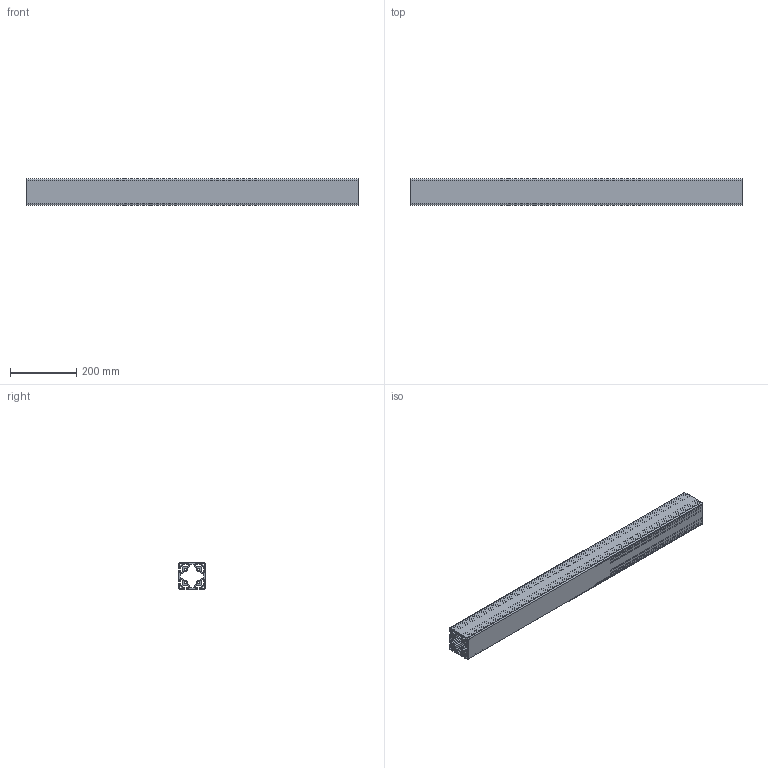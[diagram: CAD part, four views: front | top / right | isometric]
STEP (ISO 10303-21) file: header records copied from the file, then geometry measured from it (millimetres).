
FILE_DESCRIPTION (( 'STEP AP203' ), '1' );
FILE_NAME ('28351_PRO_80x80_L_4N.STEP', '2016-03-02T08:38:44', ( '' ), ( '' ), 'SwSTEP 2.0', 'SolidWorks 2015', '' );
FILE_SCHEMA (( 'CONFIG_CONTROL_DESIGN' ));
Length unit declared in the file: millimetre
Products named in the file (1): 28351_PRO_80x80_L_4N
Bounding box: 1000 x 80 x 80 mm (x, y, z)
Volume: 2064337.3 mm3; surface area: 1173354 mm2
Topology: 1 solids, 1 shells, 330 faces, 984 edges, 656 vertices
Faces by surface type: cylinder 172, plane 158
Entity records: 11321 total; most frequent: DIRECTION 1990, CARTESIAN_POINT 1971, ORIENTED_EDGE 1968, EDGE_CURVE 984, AXIS2_PLACEMENT_3D 675, VERTEX_POINT 656, VECTOR 640, LINE 640
